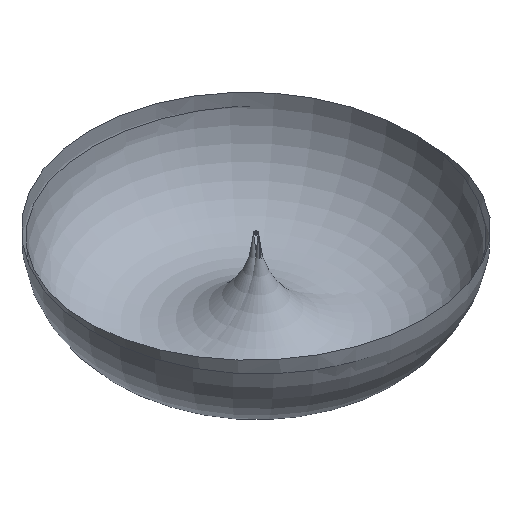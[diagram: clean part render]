
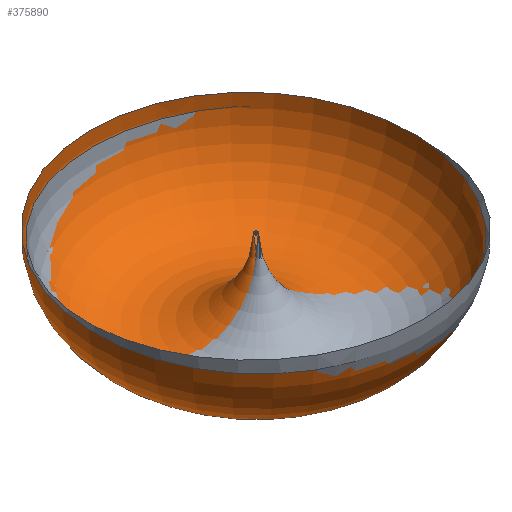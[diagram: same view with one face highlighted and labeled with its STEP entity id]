
A CAD part, isometric view. The second image highlights one B-rep face of the part: STEP entity #375890.
In plain terms, the highlighted toroidal (fillet/blend) face has major radius 2427.89 mm and minor radius 2427.67 mm.
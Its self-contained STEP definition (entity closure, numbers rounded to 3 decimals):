
#91540=CARTESIAN_POINT('',(40.573,-22.303,
2.2));
#91550=VERTEX_POINT('',#91540);
#91580=CARTESIAN_POINT('',(40.573,-22.303,2.2));
#91590=CARTESIAN_POINT('',(40.559,-22.303,2.2));
#91600=CARTESIAN_POINT('',(40.532,-22.303,2.2));
#91610=CARTESIAN_POINT('',(40.495,-22.286,2.2));
#91620=CARTESIAN_POINT('',(40.464,-22.296,2.2));
#91630=CARTESIAN_POINT('',(40.451,-22.29,2.2));
#91640=B_SPLINE_CURVE_WITH_KNOTS('',3,(#91580,#91590,#91600,#91610,
#91620,#91630),.UNSPECIFIED.,.F.,.F.,(4,1,1,4),(0.,0.333,
0.667,1.),.UNSPECIFIED.);
#91650=CARTESIAN_POINT('',(40.451,-22.29,2.2));
#91660=VERTEX_POINT('',#91650);
#91670=EDGE_CURVE('',#91550,#91660,#91640,.T.);
#374680=CARTESIAN_POINT('',(40.655,-21.981,
10.815));
#374690=VERTEX_POINT('',#374680);
#375170=CARTESIAN_POINT('',(40.465,-21.913,
10.814));
#375180=VERTEX_POINT('',#375170);
#375210=CARTESIAN_POINT('',(40.655,-21.682,
10.803));
#375220=DIRECTION('',(0.008,0.039,
0.999));
#375230=DIRECTION('',(-0.633,-0.774,
0.035));
#375240=AXIS2_PLACEMENT_3D('',#375210,#375220,#375230);
#375250=CIRCLE('',#375240,0.3);
#375260=EDGE_CURVE('',#375180,#374690,#375250,.T.);
#375380=CARTESIAN_POINT('',(40.72,-21.409,
17.531));
#375390=DIRECTION('',(-0.01,-0.041,
-0.999));
#375400=DIRECTION('',(0.,-0.999,
0.041));
#375410=AXIS2_PLACEMENT_3D('',#375380,#375390,#375400);
#375420=TOROIDAL_SURFACE('',#375410,2427.89,2427.667);
#375430=ORIENTED_EDGE('',*,*,#375260,.T.);
#375440=CARTESIAN_POINT('',(40.457,-22.277,
2.199));
#375450=CARTESIAN_POINT('',(40.459,-22.245,
2.909));
#375460=CARTESIAN_POINT('',(40.467,-22.204,
3.621));
#375470=CARTESIAN_POINT('',(40.47,-22.14,
5.049));
#375480=CARTESIAN_POINT('',(40.479,-22.1,
5.765));
#375490=CARTESIAN_POINT('',(40.482,-22.035,
7.2));
#375500=CARTESIAN_POINT('',(40.493,-21.996,
7.92));
#375510=CARTESIAN_POINT('',(40.495,-21.932,
9.363));
#375520=CARTESIAN_POINT('',(40.506,-21.893,
10.086));
#375530=CARTESIAN_POINT('',(40.507,-21.861,
10.811));
#375540=B_SPLINE_CURVE_WITH_KNOTS('',3,(#375440,#375450,#375460,#375470,
#375480,#375490,#375500,#375510,#375520,#375530),.UNSPECIFIED.,.F.,.F.,(
4,2,2,2,4),(0.,2.155,4.311,6.466,
8.622),.UNSPECIFIED.);
#375550=EDGE_CURVE('',#91660,#375180,#375540,.T.);
#375560=ORIENTED_EDGE('',*,*,#375550,.T.);
#375570=ORIENTED_EDGE('',*,*,#91670,.T.);
#375580=CARTESIAN_POINT('',(40.713,-2447.304,
115.944));
#375590=DIRECTION('',(1.,0.,
-0.01));
#375600=DIRECTION('',(0.,0.999,
-0.047));
#375610=AXIS2_PLACEMENT_3D('',#375580,#375590,#375600);
#375620=CIRCLE('',#375610,2427.667);
#375630=EDGE_CURVE('',#91550,#374690,#375620,.T.);
#375640=ORIENTED_EDGE('',*,*,#375630,.F.);
#375650=EDGE_LOOP('',(#375640,#375570,#375560,#375430));
#375660=FACE_OUTER_BOUND('',#375650,.T.);
#375670=CARTESIAN_POINT('',(40.72,-21.409,
17.531));
#375680=DIRECTION('',(-0.01,-0.041,
-0.999));
#375690=DIRECTION('',(0.,-0.999,
0.041));
#375700=AXIS2_PLACEMENT_3D('',#375670,#375680,#375690);
#375710=CIRCLE('',#375700,4855.557);
#375720=CARTESIAN_POINT('',(40.706,-4872.975,
214.348));
#375730=VERTEX_POINT('',#375720);
#375740=EDGE_CURVE('',#375730,#375730,#375710,.T.);
#375750=ORIENTED_EDGE('',*,*,#375740,.T.);
#375760=EDGE_LOOP('',(#375750));
#375770=FACE_BOUND('',#375760,.T.);
#375780=CARTESIAN_POINT('',(40.72,-21.409,
17.531));
#375790=DIRECTION('',(-0.01,-0.041,
-0.999));
#375800=DIRECTION('',(0.,-0.999,
0.041));
#375810=AXIS2_PLACEMENT_3D('',#375780,#375790,#375800);
#375820=CIRCLE('',#375810,0.224);
#375830=CARTESIAN_POINT('',(40.72,-21.632,
17.54));
#375840=VERTEX_POINT('',#375830);
#375850=EDGE_CURVE('',#375840,#375840,#375820,.T.);
#375860=ORIENTED_EDGE('',*,*,#375850,.T.);
#375870=EDGE_LOOP('',(#375860));
#375880=FACE_BOUND('',#375870,.T.);
#375890=ADVANCED_FACE('',(#375660,#375770,#375880),#375420,.T.);
